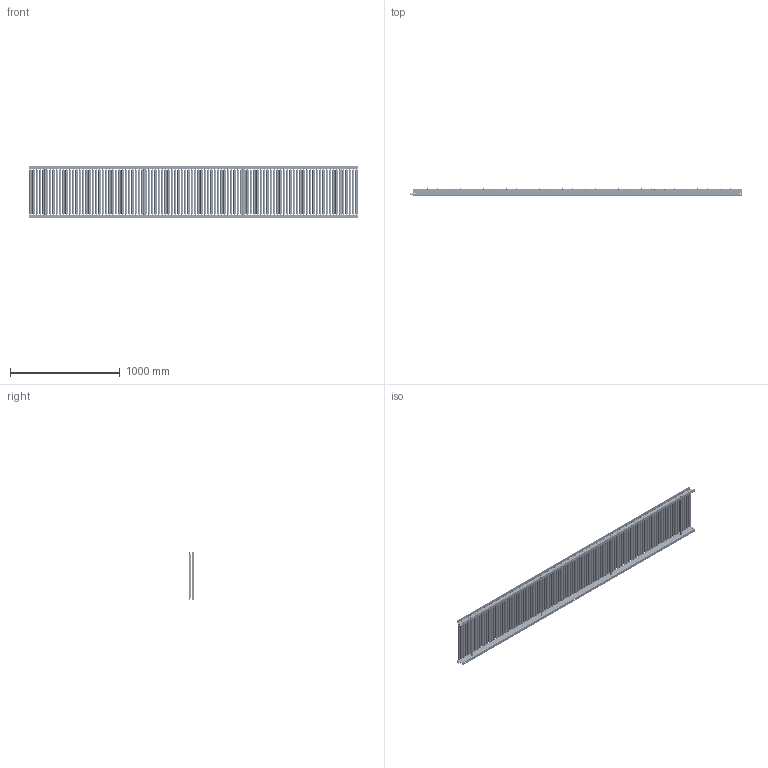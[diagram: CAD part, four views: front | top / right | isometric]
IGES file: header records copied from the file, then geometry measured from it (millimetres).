
Start section: SolidWorks IGES file using analytic representation for surfaces
Global section: file name: C:\Users\0656\Desktop\変換ツール\iges変換\RZ-2212P.igs; native system: SolidWorks 2023; preprocessor: SolidWorks 2023; author: 0656; date: 240226.152813; units: millimetre
Bounding box: 3025 x 63.09 x 475 mm (x, y, z)
Surface area: 6660281.7 mm2 (no closed solid volume)
Topology: 0 solids, 0 shells, 3420 faces, 63848 edges, 63848 vertices
Faces by surface type: revolution 1760, bspline 1660
